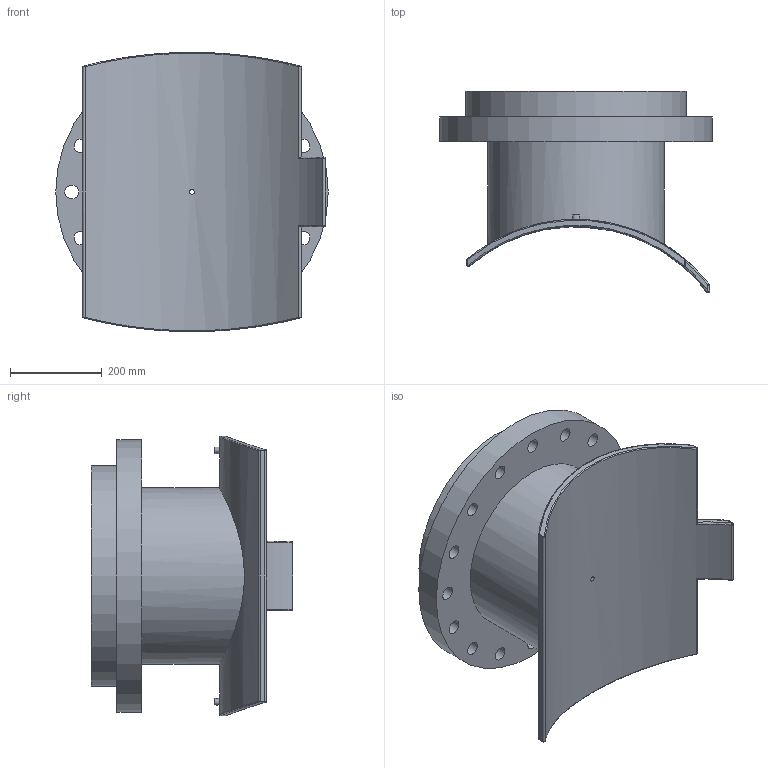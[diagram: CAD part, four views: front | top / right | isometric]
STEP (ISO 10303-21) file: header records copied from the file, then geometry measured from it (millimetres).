
FILE_DESCRIPTION(/* description */ ('PLASSON FLANGED BRANCH SADDLE 710X400'),/* implementation_level */ '2;1');
FILE_NAME(/* name */ 'C:\Dropbox\KIMPROJECTS-Inventor\99-16-3568-Processing\ElectroFusion Fittings\495904_495903\495903310400T.ipt.stp',/* time_stamp */ '2019-02-24T12:58:39+02:00',/* author */ ('KIM'),/* organization */ (''),/* preprocessor_version */ 'ST-DEVELOPER v15.6',/* originating_system */ 'Autodesk Inventor 2015',/* authorisation */ '');
FILE_SCHEMA (('AUTOMOTIVE_DESIGN { 1 0 10303 214 3 1 1 }'));
Length unit declared in the file: millimetre
Products named in the file (1): 495903310400T
Bounding box: 595 x 439.9 x 609.69 mm (x, y, z)
Volume: 26479378.2 mm3; surface area: 1794088.2 mm2
Topology: 1 solids, 1 shells, 83 faces, 188 edges, 118 vertices
Faces by surface type: cylinder 45, plane 16, bspline 12, sphere 4, torus 4, cone 2
Full cylindrical faces by diameter (mm): 4 x2, 10 x2, 10.4 x1, 16 x1, 30 x16, 327 x1, 385.6 x1, 482 x1, 595 x1
Entity records: 3082 total; most frequent: CARTESIAN_POINT 1308, DIRECTION 350, ORIENTED_EDGE 308, AXIS2_PLACEMENT_3D 160, EDGE_LOOP 156, EDGE_CURVE 154, VERTEX_POINT 112, CIRCLE 88
